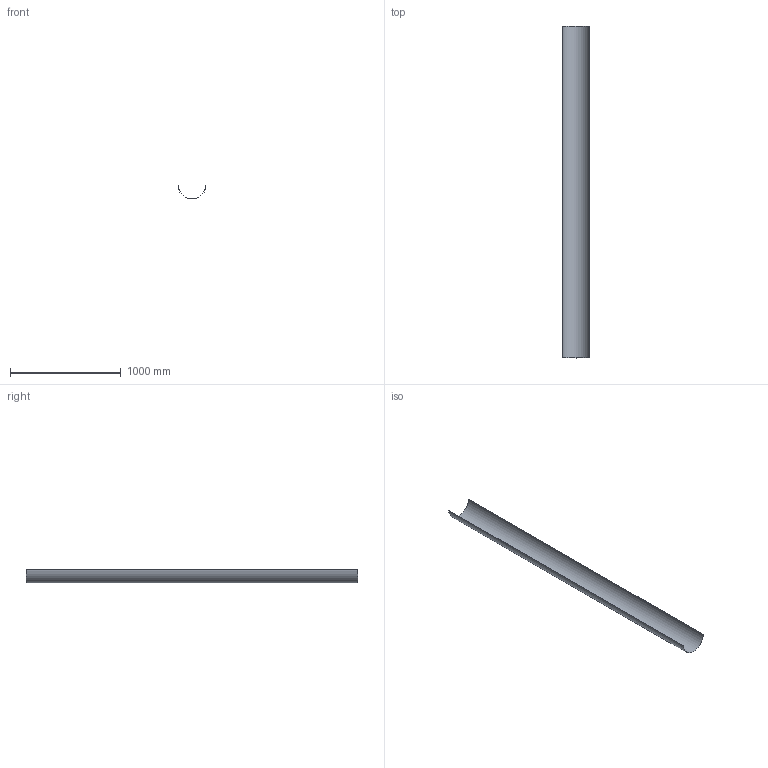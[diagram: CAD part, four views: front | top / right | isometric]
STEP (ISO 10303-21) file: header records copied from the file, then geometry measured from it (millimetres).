
FILE_DESCRIPTION(/* description */ (''),/* implementation_level */ '2;1');
FILE_NAME(/* name */ 'Z:\Geberit\Export\NewStep\371850.stp',/* time_stamp */ '2014-04-02T08:06:01+02:00',/* author */ ('bruh'),/* organization */ (''),/* preprocessor_version */ 'ST-DEVELOPER v15.2',/* originating_system */ 'Autodesk Inventor 2014',/* authorisation */ '');
FILE_SCHEMA (('AUTOMOTIVE_DESIGN { 1 0 10303 214 3 1 1 }'));
Length unit declared in the file: millimetre
Products named in the file (1): 371850
Bounding box: 251.5 x 3000 x 125.75 mm (x, y, z)
Volume: 886223.7 mm3; surface area: 2368353.9 mm2
Topology: 1 solids, 1 shells, 6 faces, 12 edges, 8 vertices
Faces by surface type: plane 4, cylinder 2
Entity records: 187 total; most frequent: DIRECTION 30, CARTESIAN_POINT 27, ORIENTED_EDGE 24, EDGE_CURVE 12, AXIS2_PLACEMENT_3D 11, LINE 8, VECTOR 8, VERTEX_POINT 8
